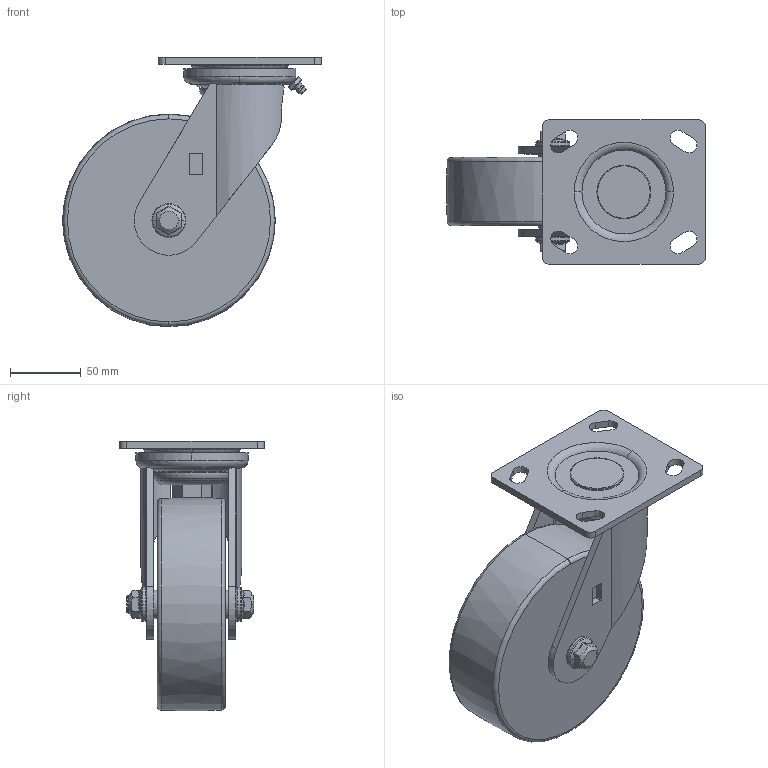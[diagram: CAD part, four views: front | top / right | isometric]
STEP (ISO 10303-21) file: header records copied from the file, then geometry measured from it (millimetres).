
FILE_DESCRIPTION((''),'2;1');
FILE_NAME('PM-150-ASF-MCD.stp','2013-04-30T11:23:58',(''),(''),'Mechanical Desktop 2009','Mechanical Desktop 2009',', , ');
FILE_SCHEMA(('CONFIG_CONTROL_DESIGN'));
Length unit declared in the file: millimetre
Products named in the file (2): PM-150-ASF-MCD; SF PLATE
Assembly tree (1 placements, depth 2):
  PM-150-ASF-MCD
    SF PLATE
Bounding box: 182.5 x 102 x 189.95 mm (x, y, z)
Volume: 1064252.7 mm3; surface area: 125493.3 mm2
Topology: 1 solids, 1 shells, 212 faces, 538 edges, 344 vertices
Faces by surface type: plane 82, cylinder 52, bspline 30, torus 28, cone 20
Entity records: 8336 total; most frequent: CARTESIAN_POINT 3235, ORIENTED_EDGE 1076, DIRECTION 1025, EDGE_CURVE 538, AXIS2_PLACEMENT_3D 412, VERTEX_POINT 344, EDGE_LOOP 240, CIRCLE 216
